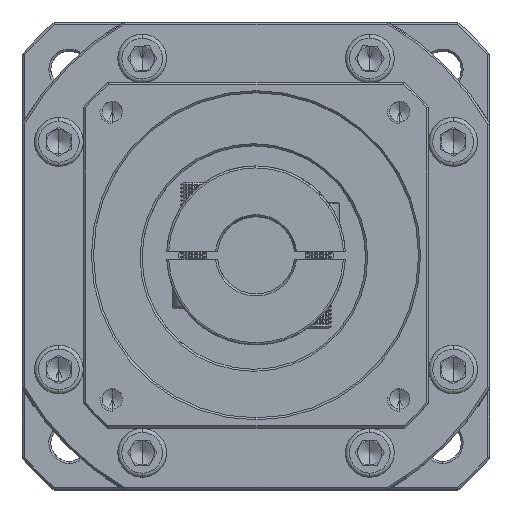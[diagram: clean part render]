
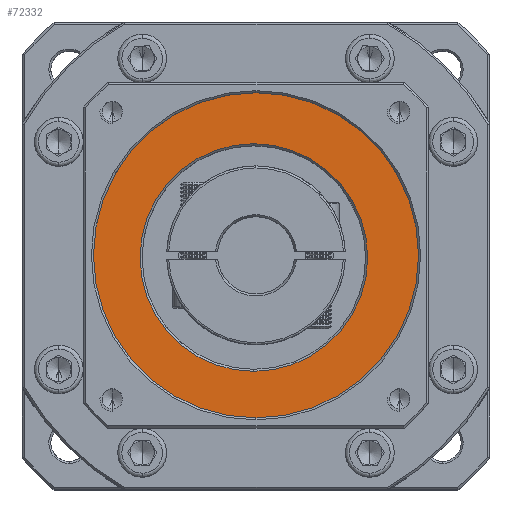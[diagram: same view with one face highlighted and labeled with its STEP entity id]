
A CAD part, top view. The second image highlights one B-rep face of the part: STEP entity #72332.
In plain terms, the highlighted planar face has unit normal (0, 0, 1).
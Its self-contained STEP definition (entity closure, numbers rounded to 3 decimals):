
#3782 = AXIS2_PLACEMENT_3D ( 'NONE', #126266, #65077, #63772 ) ;
#7941 = DIRECTION ( 'NONE',  ( 0., 0., -1. ) ) ;
#11095 = EDGE_CURVE ( 'NONE', #80689, #98475, #49393, .T. ) ;
#17914 = VERTEX_POINT ( 'NONE', #37273 ) ;
#21856 = EDGE_LOOP ( 'NONE', ( #67663, #107289 ) ) ;
#26348 = FACE_BOUND ( 'NONE', #21856, .T. ) ;
#33722 = EDGE_LOOP ( 'NONE', ( #46059, #59556 ) ) ;
#36791 = DIRECTION ( 'NONE',  ( 0., 1., 0. ) ) ;
#37273 = CARTESIAN_POINT ( 'NONE',  ( 69.184, 116.666, 1.933 ) ) ;
#40598 = EDGE_CURVE ( 'NONE', #98475, #80689, #83353, .T. ) ;
#41890 = AXIS2_PLACEMENT_3D ( 'NONE', #97955, #108641, #36791 ) ;
#46059 = ORIENTED_EDGE ( 'NONE', *, *, #66528, .T. ) ;
#48449 = CARTESIAN_POINT ( 'NONE',  ( 68.649, 48.125, 1.933 ) ) ;
#49393 = CIRCLE ( 'NONE', #60449, 28. ) ;
#53410 = VERTEX_POINT ( 'NONE', #118350 ) ;
#53434 = DIRECTION ( 'NONE',  ( 0., 1., 0. ) ) ;
#59393 = PLANE ( 'NONE',  #124067 ) ;
#59556 = ORIENTED_EDGE ( 'NONE', *, *, #131887, .T. ) ;
#60449 = AXIS2_PLACEMENT_3D ( 'NONE', #107548, #7941, #80325 ) ;
#63772 = DIRECTION ( 'NONE',  ( 0., 1., 0. ) ) ;
#65077 = DIRECTION ( 'NONE',  ( 0., 0., -1. ) ) ;
#66528 = EDGE_CURVE ( 'NONE', #17914, #53410, #131016, .T. ) ;
#67663 = ORIENTED_EDGE ( 'NONE', *, *, #11095, .T. ) ;
#69632 = CARTESIAN_POINT ( 'NONE',  ( 69.184, 76.666, 1.933 ) ) ;
#72167 = CARTESIAN_POINT ( 'NONE',  ( 69.184, 76.666, 1.933 ) ) ;
#72332 = ADVANCED_FACE ( 'NONE', ( #118908, #26348 ), #59393, .T. ) ;
#79923 = DIRECTION ( 'NONE',  ( 0., 0., 1. ) ) ;
#80325 = DIRECTION ( 'NONE',  ( 0., 1., 0. ) ) ;
#80689 = VERTEX_POINT ( 'NONE', #117883 ) ;
#83353 = CIRCLE ( 'NONE', #3782, 28. ) ;
#97955 = CARTESIAN_POINT ( 'NONE',  ( 69.184, 76.666, 1.933 ) ) ;
#98475 = VERTEX_POINT ( 'NONE', #48449 ) ;
#100444 = AXIS2_PLACEMENT_3D ( 'NONE', #72167, #113639, #53434 ) ;
#107289 = ORIENTED_EDGE ( 'NONE', *, *, #40598, .T. ) ;
#107548 = CARTESIAN_POINT ( 'NONE',  ( 68.649, 76.125, 1.933 ) ) ;
#108641 = DIRECTION ( 'NONE',  ( 0., 0., 1. ) ) ;
#113639 = DIRECTION ( 'NONE',  ( 0., 0., 1. ) ) ;
#117883 = CARTESIAN_POINT ( 'NONE',  ( 68.649, 104.125, 1.933 ) ) ;
#117955 = CIRCLE ( 'NONE', #100444, 40. ) ;
#118350 = CARTESIAN_POINT ( 'NONE',  ( 69.184, 36.666, 1.933 ) ) ;
#118908 = FACE_OUTER_BOUND ( 'NONE', #33722, .T. ) ;
#124067 = AXIS2_PLACEMENT_3D ( 'NONE', #69632, #79923, #131253 ) ;
#126266 = CARTESIAN_POINT ( 'NONE',  ( 68.649, 76.125, 1.933 ) ) ;
#131016 = CIRCLE ( 'NONE', #41890, 40. ) ;
#131253 = DIRECTION ( 'NONE',  ( 0., 1., 0. ) ) ;
#131887 = EDGE_CURVE ( 'NONE', #53410, #17914, #117955, .T. ) ;
